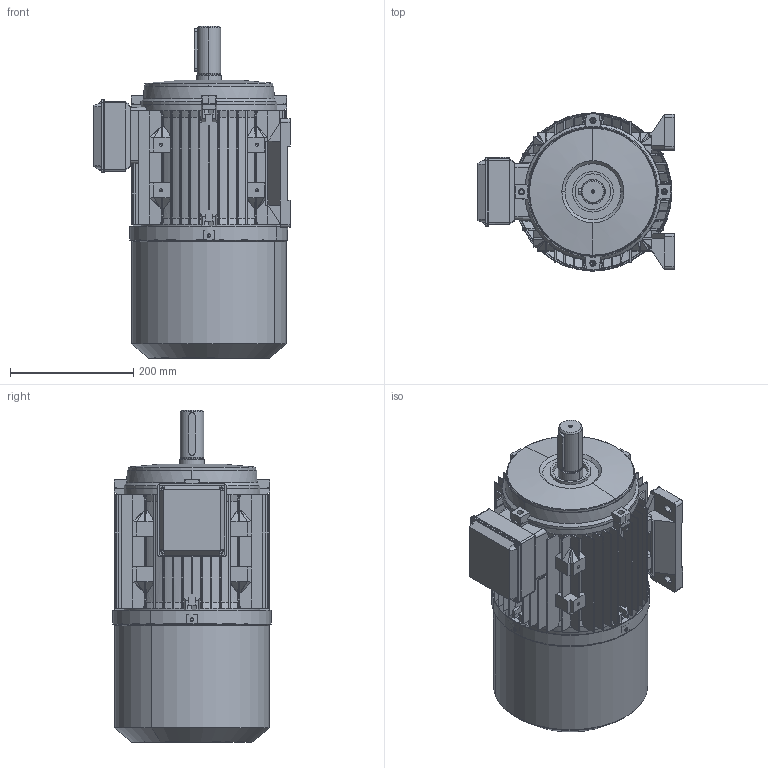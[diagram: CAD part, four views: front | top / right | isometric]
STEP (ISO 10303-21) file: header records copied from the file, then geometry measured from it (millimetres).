
FILE_DESCRIPTION (( 'STEP AP214' ), '1' );
FILE_NAME ('BMS132S_B3.STEP', '2013-09-27T11:52:34', ( 'Frank Wennekamp' ), ( '' ), 'SwSTEP 2.0', 'SolidWorks 2012', '' );
FILE_SCHEMA (( 'AUTOMOTIVE_DESIGN' ));
Length unit declared in the file: millimetre
Products named in the file (20): BRE-Haube_MS132; K7-ohne Handlüftung; K7_-contenitore_lavorato; Micro; K7-archetto nylon FV50; K7-ancora; K5-ghiera; K7-assieme disco Z23; K7-disco Z23; K7-materiale frizione 151-90; Mozzo Z23H40F44; Registro 8C; BRE-Lagerschild_MS132; Fuss_MS132S; A-Lagerschild_MS132; L黤terfl黦el_MS132; Klemmenkastendeckel_MS132; Gehäuse_MS132S; BMS132S_B3; Klemmenkastenunterteil_MS132
Assembly tree (21 placements, depth 4):
  BMS132S_B3
    Gehäuse_MS132S
    Klemmenkastenunterteil_MS132
    Klemmenkastendeckel_MS132
    L黤terfl黦el_MS132
    A-Lagerschild_MS132
    Fuss_MS132S  x2
    BRE-Lagerschild_MS132
    K7-ohne Handlüftung
      Registro 8C
      Mozzo Z23H40F44
      K7-assieme disco Z23
        K7-materiale frizione 151-90  x2
        K7-disco Z23
      K5-ghiera
      K7-ancora
      K7-archetto nylon FV50
      Micro
      K7_-contenitore_lavorato
    BRE-Haube_MS132
Bounding box: 319 x 257 x 539.5 mm (x, y, z)
Volume: 4312751.8 mm3; surface area: 1951525.5 mm2
Topology: 19 solids, 19 shells, 2624 faces, 7061 edges, 4492 vertices
Faces by surface type: cylinder 1182, plane 1021, cone 232, bspline 189
Entity records: 86985 total; most frequent: CARTESIAN_POINT 23256, ORIENTED_EDGE 13382, DIRECTION 13259, EDGE_CURVE 6691, AXIS2_PLACEMENT_3D 4900, VERTEX_POINT 4286, LINE 3459, VECTOR 3459
